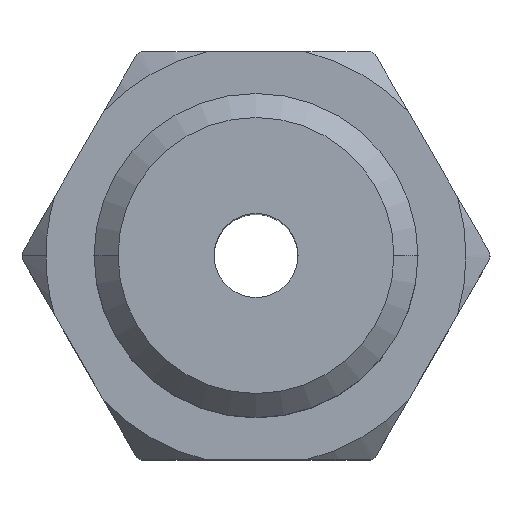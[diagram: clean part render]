
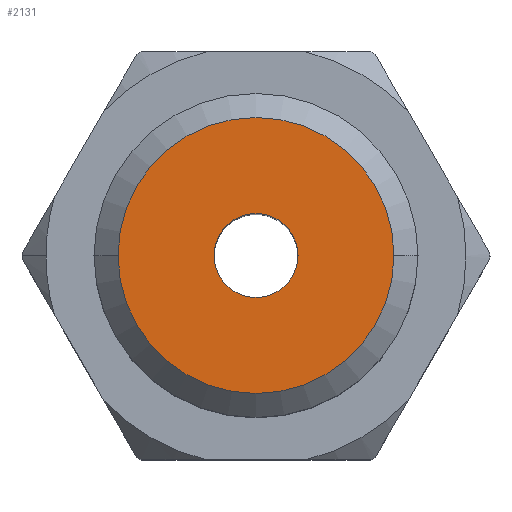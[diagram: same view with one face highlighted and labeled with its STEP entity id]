
A CAD part, top view. The second image highlights one B-rep face of the part: STEP entity #2131.
In plain terms, the highlighted planar face has unit normal (0, 0, 1).
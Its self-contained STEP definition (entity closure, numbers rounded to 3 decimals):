
#75 = AXIS2_PLACEMENT_3D ( 'NONE', #2332, #863, #849 ) ;
#188 = ORIENTED_EDGE ( 'NONE', *, *, #2289, .T. ) ;
#218 = DIRECTION ( 'NONE',  ( -1., 0., 0. ) ) ;
#301 = EDGE_CURVE ( 'NONE', #2924, #2270, #3143, .T. ) ;
#358 = CIRCLE ( 'NONE', #75, 1.75 ) ;
#474 = CARTESIAN_POINT ( 'NONE',  ( 5.75, 0., 25. ) ) ;
#499 = ORIENTED_EDGE ( 'NONE', *, *, #2699, .F. ) ;
#670 = CARTESIAN_POINT ( 'NONE',  ( 0., 0., 25. ) ) ;
#849 = DIRECTION ( 'NONE',  ( -1., 0., 0. ) ) ;
#863 = DIRECTION ( 'NONE',  ( 0., 0., 1. ) ) ;
#919 = CARTESIAN_POINT ( 'NONE',  ( 0., 0., 25. ) ) ;
#930 = ORIENTED_EDGE ( 'NONE', *, *, #1540, .F. ) ;
#1134 = DIRECTION ( 'NONE',  ( -1., 0., 0. ) ) ;
#1188 = DIRECTION ( 'NONE',  ( -1., 0., 0. ) ) ;
#1190 = CARTESIAN_POINT ( 'NONE',  ( -5.75, 0., 25. ) ) ;
#1316 = VERTEX_POINT ( 'NONE', #3069 ) ;
#1455 = CARTESIAN_POINT ( 'NONE',  ( 0., 0., 25. ) ) ;
#1471 = AXIS2_PLACEMENT_3D ( 'NONE', #2901, #2666, #1134 ) ;
#1488 = EDGE_LOOP ( 'NONE', ( #499, #930 ) ) ;
#1540 = EDGE_CURVE ( 'NONE', #1316, #3285, #358, .T. ) ;
#1547 = AXIS2_PLACEMENT_3D ( 'NONE', #670, #2428, #218 ) ;
#1549 = ORIENTED_EDGE ( 'NONE', *, *, #301, .T. ) ;
#1707 = DIRECTION ( 'NONE',  ( -1., 0., 0. ) ) ;
#1832 = FACE_OUTER_BOUND ( 'NONE', #1992, .T. ) ;
#1992 = EDGE_LOOP ( 'NONE', ( #188, #1549 ) ) ;
#1997 = AXIS2_PLACEMENT_3D ( 'NONE', #919, #2716, #1188 ) ;
#2131 = ADVANCED_FACE ( 'NONE', ( #1832, #3167 ), #2161, .F. ) ;
#2161 = PLANE ( 'NONE',  #1471 ) ;
#2270 = VERTEX_POINT ( 'NONE', #1190 ) ;
#2289 = EDGE_CURVE ( 'NONE', #2270, #2924, #2797, .T. ) ;
#2332 = CARTESIAN_POINT ( 'NONE',  ( 0., 0., 25. ) ) ;
#2428 = DIRECTION ( 'NONE',  ( 0., 0., 1. ) ) ;
#2656 = AXIS2_PLACEMENT_3D ( 'NONE', #1455, #3224, #1707 ) ;
#2666 = DIRECTION ( 'NONE',  ( 0., 0., -1. ) ) ;
#2699 = EDGE_CURVE ( 'NONE', #3285, #1316, #3086, .T. ) ;
#2716 = DIRECTION ( 'NONE',  ( 0., 0., 1. ) ) ;
#2797 = CIRCLE ( 'NONE', #2656, 5.75 ) ;
#2901 = CARTESIAN_POINT ( 'NONE',  ( 0., 0., 25. ) ) ;
#2924 = VERTEX_POINT ( 'NONE', #474 ) ;
#3069 = CARTESIAN_POINT ( 'NONE',  ( 1.75, 0., 25. ) ) ;
#3086 = CIRCLE ( 'NONE', #1997, 1.75 ) ;
#3143 = CIRCLE ( 'NONE', #1547, 5.75 ) ;
#3167 = FACE_BOUND ( 'NONE', #1488, .T. ) ;
#3206 = CARTESIAN_POINT ( 'NONE',  ( -1.75, 0., 25. ) ) ;
#3224 = DIRECTION ( 'NONE',  ( 0., 0., 1. ) ) ;
#3285 = VERTEX_POINT ( 'NONE', #3206 ) ;
